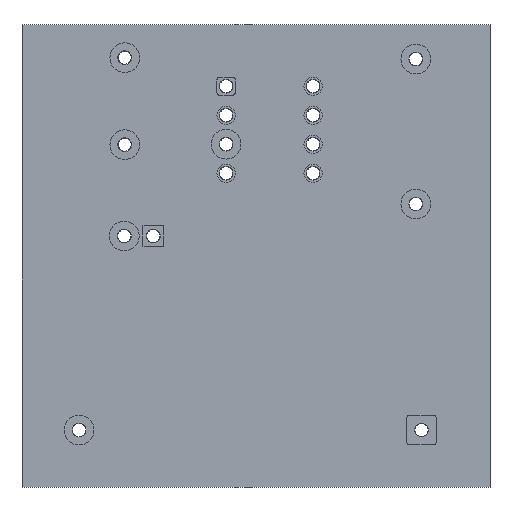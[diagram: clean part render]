
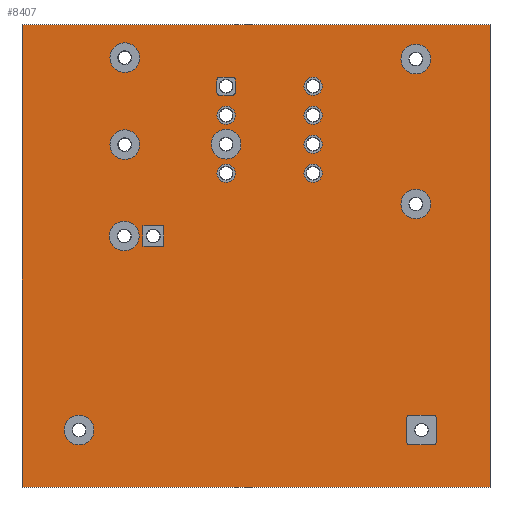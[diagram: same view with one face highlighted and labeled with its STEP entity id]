
A CAD part, top view. The second image highlights one B-rep face of the part: STEP entity #8407.
In plain terms, the highlighted planar face has unit normal (0, 0, 1).
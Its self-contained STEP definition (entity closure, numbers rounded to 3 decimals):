
#8119 = VERTEX_POINT('',#8120);
#8120 = CARTESIAN_POINT('',(165.5,-121.,1.51));
#8126 = EDGE_CURVE('',#8119,#8127,#8129,.T.);
#8127 = VERTEX_POINT('',#8128);
#8128 = CARTESIAN_POINT('',(124.5,-121.,1.51));
#8129 = LINE('',#8130,#8131);
#8130 = CARTESIAN_POINT('',(165.5,-121.,1.51));
#8131 = VECTOR('',#8132,1.);
#8132 = DIRECTION('',(-1.,0.,0.));
#8159 = VERTEX_POINT('',#8160);
#8160 = CARTESIAN_POINT('',(165.5,-80.5,1.51));
#8166 = EDGE_CURVE('',#8159,#8119,#8167,.T.);
#8167 = LINE('',#8168,#8169);
#8168 = CARTESIAN_POINT('',(165.5,-80.5,1.51));
#8169 = VECTOR('',#8170,1.);
#8170 = DIRECTION('',(0.,-1.,0.));
#8188 = EDGE_CURVE('',#8127,#8189,#8191,.T.);
#8189 = VERTEX_POINT('',#8190);
#8190 = CARTESIAN_POINT('',(124.5,-80.5,1.51));
#8191 = LINE('',#8192,#8193);
#8192 = CARTESIAN_POINT('',(124.5,-121.,1.51));
#8193 = VECTOR('',#8194,1.);
#8194 = DIRECTION('',(0.,1.,0.));
#8407 = ADVANCED_FACE('',(#8408,#8419,#8430,#8441,#8452,#8463,#8474,
    #8485,#8496,#8507,#8518,#8529,#8540,#8551,#8562,#8573,#8584),#8595,
  .T.);
#8408 = FACE_BOUND('',#8409,.T.);
#8409 = EDGE_LOOP('',(#8410,#8411,#8412,#8418));
#8410 = ORIENTED_EDGE('',*,*,#8126,.F.);
#8411 = ORIENTED_EDGE('',*,*,#8166,.F.);
#8412 = ORIENTED_EDGE('',*,*,#8413,.F.);
#8413 = EDGE_CURVE('',#8189,#8159,#8414,.T.);
#8414 = LINE('',#8415,#8416);
#8415 = CARTESIAN_POINT('',(124.5,-80.5,1.51));
#8416 = VECTOR('',#8417,1.);
#8417 = DIRECTION('',(1.,0.,0.));
#8418 = ORIENTED_EDGE('',*,*,#8188,.F.);
#8419 = FACE_BOUND('',#8420,.T.);
#8420 = EDGE_LOOP('',(#8421));
#8421 = ORIENTED_EDGE('',*,*,#8422,.T.);
#8422 = EDGE_CURVE('',#8423,#8423,#8425,.T.);
#8423 = VERTEX_POINT('',#8424);
#8424 = CARTESIAN_POINT('',(129.5,-116.6,1.51));
#8425 = CIRCLE('',#8426,0.6);
#8426 = AXIS2_PLACEMENT_3D('',#8427,#8428,#8429);
#8427 = CARTESIAN_POINT('',(129.5,-116.,1.51));
#8428 = DIRECTION('',(-0.,0.,-1.));
#8429 = DIRECTION('',(-0.,-1.,0.));
#8430 = FACE_BOUND('',#8431,.T.);
#8431 = EDGE_LOOP('',(#8432));
#8432 = ORIENTED_EDGE('',*,*,#8433,.T.);
#8433 = EDGE_CURVE('',#8434,#8434,#8436,.T.);
#8434 = VERTEX_POINT('',#8435);
#8435 = CARTESIAN_POINT('',(159.5,-116.6,1.51));
#8436 = CIRCLE('',#8437,0.6);
#8437 = AXIS2_PLACEMENT_3D('',#8438,#8439,#8440);
#8438 = CARTESIAN_POINT('',(159.5,-116.,1.51));
#8439 = DIRECTION('',(-0.,0.,-1.));
#8440 = DIRECTION('',(-0.,-1.,0.));
#8441 = FACE_BOUND('',#8442,.T.);
#8442 = EDGE_LOOP('',(#8443));
#8443 = ORIENTED_EDGE('',*,*,#8444,.T.);
#8444 = EDGE_CURVE('',#8445,#8445,#8447,.T.);
#8445 = VERTEX_POINT('',#8446);
#8446 = CARTESIAN_POINT('',(133.46,-99.6,1.51));
#8447 = CIRCLE('',#8448,0.6);
#8448 = AXIS2_PLACEMENT_3D('',#8449,#8450,#8451);
#8449 = CARTESIAN_POINT('',(133.46,-99.,1.51));
#8450 = DIRECTION('',(-0.,0.,-1.));
#8451 = DIRECTION('',(-0.,-1.,0.));
#8452 = FACE_BOUND('',#8453,.T.);
#8453 = EDGE_LOOP('',(#8454));
#8454 = ORIENTED_EDGE('',*,*,#8455,.T.);
#8455 = EDGE_CURVE('',#8456,#8456,#8458,.T.);
#8456 = VERTEX_POINT('',#8457);
#8457 = CARTESIAN_POINT('',(136.,-99.6,1.51));
#8458 = CIRCLE('',#8459,0.6);
#8459 = AXIS2_PLACEMENT_3D('',#8460,#8461,#8462);
#8460 = CARTESIAN_POINT('',(136.,-99.,1.51));
#8461 = DIRECTION('',(-0.,0.,-1.));
#8462 = DIRECTION('',(-0.,-1.,0.));
#8463 = FACE_BOUND('',#8464,.T.);
#8464 = EDGE_LOOP('',(#8465));
#8465 = ORIENTED_EDGE('',*,*,#8466,.T.);
#8466 = EDGE_CURVE('',#8467,#8467,#8469,.T.);
#8467 = VERTEX_POINT('',#8468);
#8468 = CARTESIAN_POINT('',(142.38,-94.1,1.51));
#8469 = CIRCLE('',#8470,0.6);
#8470 = AXIS2_PLACEMENT_3D('',#8471,#8472,#8473);
#8471 = CARTESIAN_POINT('',(142.38,-93.5,1.51));
#8472 = DIRECTION('',(-0.,0.,-1.));
#8473 = DIRECTION('',(-0.,-1.,0.));
#8474 = FACE_BOUND('',#8475,.T.);
#8475 = EDGE_LOOP('',(#8476));
#8476 = ORIENTED_EDGE('',*,*,#8477,.T.);
#8477 = EDGE_CURVE('',#8478,#8478,#8480,.T.);
#8478 = VERTEX_POINT('',#8479);
#8479 = CARTESIAN_POINT('',(133.5,-91.6,1.51));
#8480 = CIRCLE('',#8481,0.6);
#8481 = AXIS2_PLACEMENT_3D('',#8482,#8483,#8484);
#8482 = CARTESIAN_POINT('',(133.5,-91.,1.51));
#8483 = DIRECTION('',(-0.,0.,-1.));
#8484 = DIRECTION('',(-0.,-1.,0.));
#8485 = FACE_BOUND('',#8486,.T.);
#8486 = EDGE_LOOP('',(#8487));
#8487 = ORIENTED_EDGE('',*,*,#8488,.T.);
#8488 = EDGE_CURVE('',#8489,#8489,#8491,.T.);
#8489 = VERTEX_POINT('',#8490);
#8490 = CARTESIAN_POINT('',(133.5,-83.98,1.51));
#8491 = CIRCLE('',#8492,0.6);
#8492 = AXIS2_PLACEMENT_3D('',#8493,#8494,#8495);
#8493 = CARTESIAN_POINT('',(133.5,-83.38,1.51));
#8494 = DIRECTION('',(-0.,0.,-1.));
#8495 = DIRECTION('',(-0.,-1.,0.));
#8496 = FACE_BOUND('',#8497,.T.);
#8497 = EDGE_LOOP('',(#8498));
#8498 = ORIENTED_EDGE('',*,*,#8499,.T.);
#8499 = EDGE_CURVE('',#8500,#8500,#8502,.T.);
#8500 = VERTEX_POINT('',#8501);
#8501 = CARTESIAN_POINT('',(142.38,-91.56,1.51));
#8502 = CIRCLE('',#8503,0.6);
#8503 = AXIS2_PLACEMENT_3D('',#8504,#8505,#8506);
#8504 = CARTESIAN_POINT('',(142.38,-90.96,1.51));
#8505 = DIRECTION('',(-0.,0.,-1.));
#8506 = DIRECTION('',(-0.,-1.,0.));
#8507 = FACE_BOUND('',#8508,.T.);
#8508 = EDGE_LOOP('',(#8509));
#8509 = ORIENTED_EDGE('',*,*,#8510,.T.);
#8510 = EDGE_CURVE('',#8511,#8511,#8513,.T.);
#8511 = VERTEX_POINT('',#8512);
#8512 = CARTESIAN_POINT('',(142.38,-89.02,1.51));
#8513 = CIRCLE('',#8514,0.6);
#8514 = AXIS2_PLACEMENT_3D('',#8515,#8516,#8517);
#8515 = CARTESIAN_POINT('',(142.38,-88.42,1.51));
#8516 = DIRECTION('',(-0.,0.,-1.));
#8517 = DIRECTION('',(-0.,-1.,0.));
#8518 = FACE_BOUND('',#8519,.T.);
#8519 = EDGE_LOOP('',(#8520));
#8520 = ORIENTED_EDGE('',*,*,#8521,.T.);
#8521 = EDGE_CURVE('',#8522,#8522,#8524,.T.);
#8522 = VERTEX_POINT('',#8523);
#8523 = CARTESIAN_POINT('',(142.38,-86.48,1.51));
#8524 = CIRCLE('',#8525,0.6);
#8525 = AXIS2_PLACEMENT_3D('',#8526,#8527,#8528);
#8526 = CARTESIAN_POINT('',(142.38,-85.88,1.51));
#8527 = DIRECTION('',(-0.,0.,-1.));
#8528 = DIRECTION('',(-0.,-1.,0.));
#8529 = FACE_BOUND('',#8530,.T.);
#8530 = EDGE_LOOP('',(#8531));
#8531 = ORIENTED_EDGE('',*,*,#8532,.T.);
#8532 = EDGE_CURVE('',#8533,#8533,#8535,.T.);
#8533 = VERTEX_POINT('',#8534);
#8534 = CARTESIAN_POINT('',(150.,-94.1,1.51));
#8535 = CIRCLE('',#8536,0.6);
#8536 = AXIS2_PLACEMENT_3D('',#8537,#8538,#8539);
#8537 = CARTESIAN_POINT('',(150.,-93.5,1.51));
#8538 = DIRECTION('',(-0.,0.,-1.));
#8539 = DIRECTION('',(-0.,-1.,0.));
#8540 = FACE_BOUND('',#8541,.T.);
#8541 = EDGE_LOOP('',(#8542));
#8542 = ORIENTED_EDGE('',*,*,#8543,.T.);
#8543 = EDGE_CURVE('',#8544,#8544,#8546,.T.);
#8544 = VERTEX_POINT('',#8545);
#8545 = CARTESIAN_POINT('',(159.,-96.8,1.51));
#8546 = CIRCLE('',#8547,0.6);
#8547 = AXIS2_PLACEMENT_3D('',#8548,#8549,#8550);
#8548 = CARTESIAN_POINT('',(159.,-96.2,1.51));
#8549 = DIRECTION('',(-0.,0.,-1.));
#8550 = DIRECTION('',(-0.,-1.,0.));
#8551 = FACE_BOUND('',#8552,.T.);
#8552 = EDGE_LOOP('',(#8553));
#8553 = ORIENTED_EDGE('',*,*,#8554,.T.);
#8554 = EDGE_CURVE('',#8555,#8555,#8557,.T.);
#8555 = VERTEX_POINT('',#8556);
#8556 = CARTESIAN_POINT('',(150.,-91.56,1.51));
#8557 = CIRCLE('',#8558,0.6);
#8558 = AXIS2_PLACEMENT_3D('',#8559,#8560,#8561);
#8559 = CARTESIAN_POINT('',(150.,-90.96,1.51));
#8560 = DIRECTION('',(-0.,0.,-1.));
#8561 = DIRECTION('',(-0.,-1.,0.));
#8562 = FACE_BOUND('',#8563,.T.);
#8563 = EDGE_LOOP('',(#8564));
#8564 = ORIENTED_EDGE('',*,*,#8565,.T.);
#8565 = EDGE_CURVE('',#8566,#8566,#8568,.T.);
#8566 = VERTEX_POINT('',#8567);
#8567 = CARTESIAN_POINT('',(150.,-89.02,1.51));
#8568 = CIRCLE('',#8569,0.6);
#8569 = AXIS2_PLACEMENT_3D('',#8570,#8571,#8572);
#8570 = CARTESIAN_POINT('',(150.,-88.42,1.51));
#8571 = DIRECTION('',(-0.,0.,-1.));
#8572 = DIRECTION('',(-0.,-1.,0.));
#8573 = FACE_BOUND('',#8574,.T.);
#8574 = EDGE_LOOP('',(#8575));
#8575 = ORIENTED_EDGE('',*,*,#8576,.T.);
#8576 = EDGE_CURVE('',#8577,#8577,#8579,.T.);
#8577 = VERTEX_POINT('',#8578);
#8578 = CARTESIAN_POINT('',(150.,-86.48,1.51));
#8579 = CIRCLE('',#8580,0.6);
#8580 = AXIS2_PLACEMENT_3D('',#8581,#8582,#8583);
#8581 = CARTESIAN_POINT('',(150.,-85.88,1.51));
#8582 = DIRECTION('',(-0.,0.,-1.));
#8583 = DIRECTION('',(-0.,-1.,0.));
#8584 = FACE_BOUND('',#8585,.T.);
#8585 = EDGE_LOOP('',(#8586));
#8586 = ORIENTED_EDGE('',*,*,#8587,.T.);
#8587 = EDGE_CURVE('',#8588,#8588,#8590,.T.);
#8588 = VERTEX_POINT('',#8589);
#8589 = CARTESIAN_POINT('',(159.,-84.1,1.51));
#8590 = CIRCLE('',#8591,0.6);
#8591 = AXIS2_PLACEMENT_3D('',#8592,#8593,#8594);
#8592 = CARTESIAN_POINT('',(159.,-83.5,1.51));
#8593 = DIRECTION('',(-0.,0.,-1.));
#8594 = DIRECTION('',(-0.,-1.,0.));
#8595 = PLANE('',#8596);
#8596 = AXIS2_PLACEMENT_3D('',#8597,#8598,#8599);
#8597 = CARTESIAN_POINT('',(0.,0.,1.51));
#8598 = DIRECTION('',(0.,0.,1.));
#8599 = DIRECTION('',(1.,0.,-0.));
